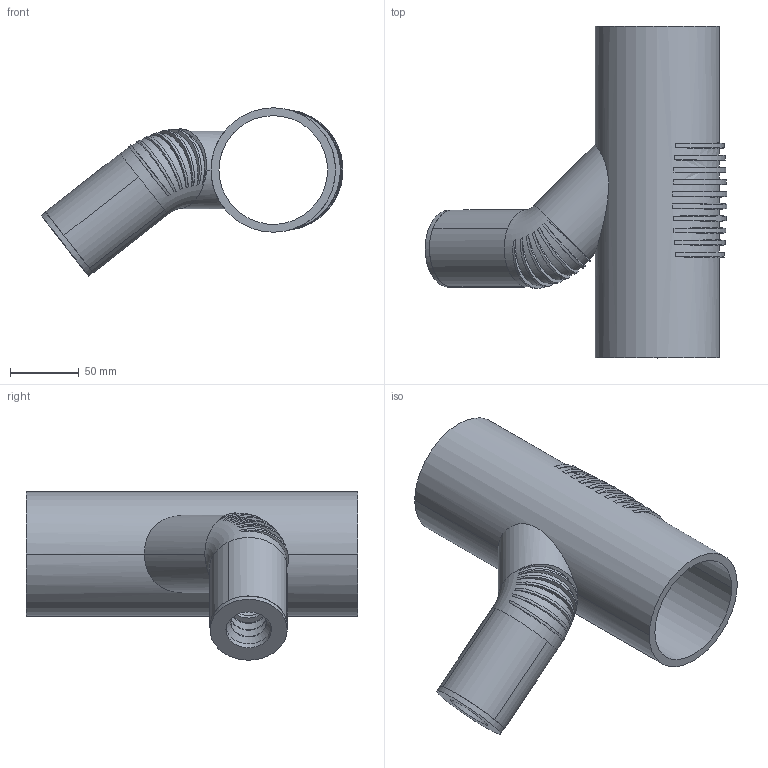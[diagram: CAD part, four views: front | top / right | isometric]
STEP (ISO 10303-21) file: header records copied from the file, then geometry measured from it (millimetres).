
FILE_DESCRIPTION(/* description */ (''),/* implementation_level */ '2;1');
FILE_NAME(/* name */ 'C:\Geberit-Teile\Export 2019\308.052.14.1\stp\308052.stp',/* time_stamp */ '2019-05-09T13:36:45+02:00',/* author */ ('JANAN'),/* organization */ (''),/* preprocessor_version */ 'ST-DEVELOPER v16.13',/* originating_system */ 'Autodesk Inventor 2018',/* authorisation */ '');
FILE_SCHEMA (('AUTOMOTIVE_DESIGN { 1 0 10303 214 3 1 1 }'));
Length unit declared in the file: millimetre
Products named in the file (3): Abzw f AppAn PE-S2 90G d90/56 re; 308.052.14.1; Manschette
Assembly tree (2 placements, depth 2):
  Abzw f AppAn PE-S2 90G d90/56 re
    308.052.14.1
    Manschette
Bounding box: 219.12 x 241 x 122.31 mm (x, y, z)
Volume: 475748.9 mm3; surface area: 201057.4 mm2
Topology: 2 solids, 2 shells, 106 faces, 288 edges, 187 vertices
Faces by surface type: cone 50, cylinder 42, plane 9, torus 4, bspline 1
Full cylindrical faces by diameter (mm): 26 x1, 33 x1, 44 x3, 49.55 x1, 50 x1, 56 x1
Entity records: 4483 total; most frequent: CARTESIAN_POINT 1913, ORIENTED_EDGE 488, DIRECTION 474, EDGE_CURVE 244, AXIS2_PLACEMENT_3D 208, VERTEX_POINT 167, EDGE_LOOP 137, FACE_OUTER_BOUND 106
